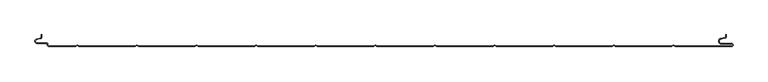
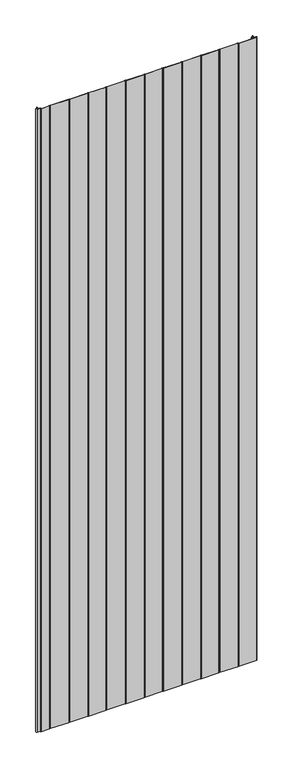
"""IFC4 building model written with IfcOpenShell, lengths in millimetres: plate geometry, PM1_Curtain-Panel_Perfil-Frigorífico : ACH_PM1_Panel-Acústico-Sectorización_150M."""

import ifcopenshell
import ifcopenshell.guid

model = None  # the IFC model being written
_history = None  # IfcOwnerHistory: only IFC2X3 demands one
_inside = {}  # id of a spatial element -> (the spatial element, [elements in it])
_under = {}  # id of a project, library or spatial element -> (it, [spatial elements below it])
_declared = {}  # id of a project -> (the project, [libraries it declares])
_typed = {}  # id of a type object -> (the type object, [elements of that type])
_made_of = {}  # id of a material, layer set ... -> (it, [elements and type objects made of it])


def new_model(schema):
    """Start an empty IFC model of exactly this schema.

    Asked for "IFC4X3", IfcOpenShell would pick the latest addendum, in which some entities
    have other attributes; the version numbers below select the first issue.
    IFC2X3 requires an IfcOwnerHistory on every rooted entity: one is made here for all.
    """
    global model, _history
    if schema == "IFC4X3":
        model = ifcopenshell.file(schema_version=(4, 3, 0, 0))
    else:
        model = ifcopenshell.file(schema=schema)
    _inside.clear()
    _under.clear()
    _declared.clear()
    _typed.clear()
    _made_of.clear()
    _history = None
    if model.schema == "IFC2X3":
        org = make("IfcOrganization", Name="unknown")
        user = make(
            "IfcPersonAndOrganization",
            ThePerson=make("IfcPerson", FamilyName="unknown"),
            TheOrganization=org,
        )
        app = make(
            "IfcApplication",
            ApplicationDeveloper=org,
            Version="unknown",
            ApplicationFullName="unknown",
            ApplicationIdentifier="unknown",
        )
        _history = make(
            "IfcOwnerHistory",
            OwningUser=user,
            OwningApplication=app,
            ChangeAction="ADDED",
            CreationDate=0,
        )
    return model


def make(cls, **values):
    """One entity of the class cls with the attributes given. An attribute that is None is left unset."""
    return model.create_entity(
        cls, **{name: value for name, value in values.items() if value is not None}
    )


def rooted(cls, **values):
    """An entity with a GlobalId (a new one), such as an element, a storey or a relation."""
    return make(cls, GlobalId=ifcopenshell.guid.new(), OwnerHistory=_history, **values)


def si_unit(unit_type, name, prefix=None):
    """IfcSIUnit, for example si_unit("LENGTHUNIT", "METRE", prefix="MILLI")."""
    return make("IfcSIUnit", UnitType=unit_type, Prefix=prefix, Name=name)


def assignment(units):
    """IfcUnitAssignment: the units of a project."""
    return None if units is None else make("IfcUnitAssignment", Units=units)


def point(xyz):
    """IfcCartesianPoint."""
    return None if xyz is None else make("IfcCartesianPoint", Coordinates=xyz)


def direction(xyz):
    """IfcDirection."""
    return None if xyz is None else make("IfcDirection", DirectionRatios=xyz)


def frame(location, z_axis=None, x_axis=None):
    """IfcAxis2Placement3D, a coordinate frame: its origin and axes. An axis left out is left unset."""
    return make(
        "IfcAxis2Placement3D",
        Location=point(location),
        Axis=direction(z_axis),
        RefDirection=direction(x_axis),
    )


def origin():
    """The frame at (0, 0, 0) with its axes left unset."""
    return frame((0.0, 0.0, 0.0))


def place(relative_to, where):
    """IfcLocalPlacement: puts the frame where relative to a parent placement (None: the world)."""
    return make(
        "IfcLocalPlacement", PlacementRelTo=relative_to, RelativePlacement=where
    )


def context(
    kind, dimensions, precision=None, world=None, true_north=None, identifier=None
):
    """IfcGeometricRepresentationContext, for example the 3D "Model" context."""
    return make(
        "IfcGeometricRepresentationContext",
        ContextIdentifier=identifier,
        ContextType=kind,
        CoordinateSpaceDimension=dimensions,
        Precision=precision,
        WorldCoordinateSystem=world,
        TrueNorth=true_north,
    )


def project(units=None, contexts=None):
    """IfcProject with its units and contexts."""
    return rooted(
        "IfcProject",
        Name="project",
        RepresentationContexts=contexts,
        UnitsInContext=assignment(units),
    )


def spatial(cls, under=None, at=None, **own):
    """A site, building, storey or space (cls), placed at a placement, below another one or the project."""
    s = rooted(cls, ObjectPlacement=at, **own)
    if under is not None:
        _under.setdefault(under.id(), (under, []))[1].append(s)
    return s


def polyline(points):
    """IfcPolyline through the points."""
    return make("IfcPolyline", Points=[point(p) for p in points])


def circle_curve(where, radius):
    """IfcCircle in the frame where."""
    return make("IfcCircle", Position=where, Radius=radius)


def shape(context_of_items, identifier, shape_type, items):
    """IfcShapeRepresentation: the items that make up one representation, for example the "Body"."""
    return make(
        "IfcShapeRepresentation",
        ContextOfItems=context_of_items,
        RepresentationIdentifier=identifier,
        RepresentationType=shape_type,
        Items=items,
    )


def source(mapping_origin, context_of_items, identifier, shape_type, items):
    """IfcRepresentationMap: a shape defined once, which mapped items show again and again."""
    return make(
        "IfcRepresentationMap",
        MappingOrigin=mapping_origin,
        MappedRepresentation=shape(context_of_items, identifier, shape_type, items),
    )


def transform(
    local_origin,
    x_axis=None,
    y_axis=None,
    z_axis=None,
    scale=None,
    scale2=None,
    scale3=None,
    uniform=True,
):
    """IfcCartesianTransformationOperator3D, or its non-uniform kind. x_axis, y_axis, z_axis: its Axis1, 2, 3."""
    if uniform:
        return make(
            "IfcCartesianTransformationOperator3D",
            Axis1=direction(x_axis),
            Axis2=direction(y_axis),
            LocalOrigin=point(local_origin),
            Scale=scale,
            Axis3=direction(z_axis),
        )
    return make(
        "IfcCartesianTransformationOperator3DnonUniform",
        Axis1=direction(x_axis),
        Axis2=direction(y_axis),
        LocalOrigin=point(local_origin),
        Scale=scale,
        Axis3=direction(z_axis),
        Scale2=scale2,
        Scale3=scale3,
    )


def mapped(mapping_source, mapping_target):
    """IfcMappedItem: shows the shape of a source again, moved by a transform."""
    return make(
        "IfcMappedItem", MappingSource=mapping_source, MappingTarget=mapping_target
    )


def made_of(thing, what):
    """Note that an element or type object is made of a material, layer set ...; save() writes the relation."""
    if what is not None:
        _made_of.setdefault(what.id(), (what, []))[1].append(thing)
    return thing


def element(
    cls,
    number,
    at=None,
    inside=None,
    cuts=None,
    type_object=None,
    material=None,
    context=None,
    identifier="Body",
    shape_type=None,
    held_by="IfcProductDefinitionShape",
    body=None,
    shapes=None,
    **own,
):
    """One element of the class cls, such as IfcWall. Its Tag is "e" and its number.

    at: its placement. inside: the storey or other place that contains it. cuts: it is an
    opening in that element (IfcRelVoidsElement). A single representation is given by context,
    identifier, shape_type and body (its items); several are given by shapes. held_by: the class
    of the entity that holds the representations. save() writes the other relations.
    """
    e = rooted(cls, Tag="e%d" % number, ObjectPlacement=at, **own)
    if body is not None:
        shapes = [shape(context, identifier, shape_type, body)]
    if shapes is not None:
        e.Representation = make(held_by, Representations=shapes)
    if inside is not None:
        _inside.setdefault(inside.id(), (inside, []))[1].append(e)
    if cuts is not None:
        rooted(
            "IfcRelVoidsElement", RelatingBuildingElement=cuts, RelatedOpeningElement=e
        )
    if type_object is not None:
        _typed.setdefault(type_object.id(), (type_object, []))[1].append(e)
    return made_of(e, material)


def aggregate(whole, parts):
    """IfcRelAggregates: a whole, such as a stair, and the parts it consists of."""
    return rooted("IfcRelAggregates", RelatingObject=whole, RelatedObjects=parts)


def save(model, path):
    """Write the relations noted so far, then the file.

    IfcRelAggregates (storeys below a building ...), IfcRelContainedInSpatialStructure (elements
    in a storey), IfcRelDefinesByType, IfcRelAssociatesMaterial and IfcRelDeclares: one each for
    every whole, place, type object, material and project.
    """
    for whole, parts in _under.values():
        aggregate(whole, parts)
    for where, things in _inside.values():
        rooted(
            "IfcRelContainedInSpatialStructure",
            RelatedElements=things,
            RelatingStructure=where,
        )
    for kind, things in _typed.values():
        rooted("IfcRelDefinesByType", RelatedObjects=things, RelatingType=kind)
    for what, things in _made_of.values():
        rooted("IfcRelAssociatesMaterial", RelatedObjects=things, RelatingMaterial=what)
    for by, libraries in _declared.values():
        rooted("IfcRelDeclares", RelatingContext=by, RelatedDefinitions=libraries)
    model.write(path)


def plane_surface(at):
    """IfcPlane: the flat surface through the origin of the frame at, square to its z axis."""
    return make("IfcPlane", Position=at)


def cylinder_surface(at, radius):
    """IfcCylindricalSurface: all points at the distance radius from the z axis of the frame at."""
    return make("IfcCylindricalSurface", Position=at, Radius=radius)


def revolved_surface(curve, axis_point, axis_direction):
    """IfcSurfaceOfRevolution: the curve turned about the line through axis_point along axis_direction."""
    return make(
        "IfcSurfaceOfRevolution",
        SweptCurve=make("IfcArbitraryOpenProfileDef", ProfileType="CURVE", Curve=curve),
        AxisPosition=make("IfcAxis1Placement", Location=point(axis_point), Axis=direction(axis_direction)),
    )


def advanced_brep(points, edges, surfaces, faces):
    """IfcAdvancedBrep: a solid bounded by faces that lie on surfaces and meet in shared edges.

    An edge is (start, end): straight between two places in points (the first is 0);
    or (start, end, curve); or (start, end, curve, False) where it runs against its curve.
    A face is (place in surfaces, loops), or (place, loops, False) where it looks against
    its surface's normal. A loop lists edges by number (the first is 1), with a minus sign
    where the edge is run from its end to its start. The first loop is the outer one.
    """
    corners = [point(p) for p in points]
    vertices = [make("IfcVertexPoint", VertexGeometry=c) for c in corners]
    made = []
    for start, end, *more in edges:
        made.append(
            make(
                "IfcEdgeCurve",
                EdgeStart=vertices[start],
                EdgeEnd=vertices[end],
                EdgeGeometry=more[0] if more else make("IfcPolyline", Points=[corners[start], corners[end]]),
                SameSense=more[1] if len(more) > 1 else True,
            )
        )
    hull = []
    for where, loops, *sense in faces:
        bounds = []
        for j, loop in enumerate(loops):
            ring = [make("IfcOrientedEdge", EdgeElement=made[abs(k) - 1], Orientation=k > 0) for k in loop]
            bounds.append(
                make(
                    "IfcFaceOuterBound" if j == 0 else "IfcFaceBound",
                    Bound=make("IfcEdgeLoop", EdgeList=ring),
                    Orientation=True,
                )
            )
        hull.append(make("IfcAdvancedFace", Bounds=bounds, FaceSurface=surfaces[where], SameSense=sense[0] if sense else True))
    return make("IfcAdvancedBrep", Outer=make("IfcClosedShell", CfsFaces=hull))


def plate_9ce57156(model_context):
    return source(origin(), model_context, "Body", "AdvancedBrep", [
        advanced_brep(
        [(-575.0, -134.121443, 3500.0), (-576.5500978, -136.0701831, 3500.0), (-582.7098239, -137.492268, 3500.0), (-581.9, -144.6, 3500.0), (-566.4, -144.6, 3500.0), (-564.4, -146.6, 3500.0), (-564.4, -148.0, 3500.0), (-562.4, -150.0, 3500.0), (-517.0999995, -150.0, 3500.0), (-514.4, -148.4411545, 3500.0), (-511.7000005, -150.0, 3500.0), (-417.0999995, -150.0, 3500.0), (-414.4, -148.4411545, 3500.0), (-411.7000005, -150.0, 3500.0), (-317.0999995, -150.0, 3500.0), (-314.4, -148.4411545, 3500.0), (-311.7000005, -150.0, 3500.0), (-217.0999995, -150.0, 3500.0), (-214.4, -148.4411545, 3500.0), (-211.7000005, -150.0, 3500.0), (-117.0999995, -150.0, 3500.0), (-114.4, -148.4411545, 3500.0), (-111.7000005, -150.0, 3500.0), (-17.0999995, -150.0, 3500.0), (-14.4, -148.4411545, 3500.0), (-11.7000005, -150.0, 3500.0), (82.9000005, -150.0, 3500.0), (85.6, -148.4411545, 3500.0), (88.2999995, -150.0, 3500.0), (182.9000005, -150.0, 3500.0), (185.6, -148.4411545, 3500.0), (188.2999995, -150.0, 3500.0), (282.9000005, -150.0, 3500.0), (285.6, -148.4411545, 3500.0), (288.2999995, -150.0, 3500.0), (382.9000005, -150.0, 3500.0), (385.6, -148.4411545, 3500.0), (388.2999995, -150.0, 3500.0), (482.9000005, -150.0, 3500.0), (485.6, -148.4411545, 3500.0), (488.2999995, -150.0, 3500.0), (583.1, -150.0, 3500.0), (585.6, -147.5, 3500.0), (583.1, -145.0, 3500.0), (566.1, -145.0, 3500.0), (565.405407, -137.060769, 3500.0), (571.8514855, -135.9241509, 3500.0), (574.0, -133.3636508, 3500.0), (574.0, -130.0, 3500.0), (573.2, -130.0, 3500.0), (573.2, -133.3636508, 3500.0), (571.7125669, -135.1363047, 3500.0), (565.2664884, -136.2729228, 3500.0), (566.1, -145.8, 3500.0), (583.1, -145.8, 3500.0), (583.1, -149.2, 3500.0), (488.5143588, -149.2, 3500.0), (485.6, -147.517394, 3500.0), (482.6856412, -149.2, 3500.0), (388.5143588, -149.2, 3500.0), (385.6, -147.517394, 3500.0), (382.6856412, -149.2, 3500.0), (288.5143588, -149.2, 3500.0), (285.6, -147.517394, 3500.0), (282.6856412, -149.2, 3500.0), (188.5143588, -149.2, 3500.0), (185.6, -147.517394, 3500.0), (182.6856412, -149.2, 3500.0), (88.5143588, -149.2, 3500.0), (85.6, -147.517394, 3500.0), (82.6856412, -149.2, 3500.0), (-11.4856412, -149.2, 3500.0), (-14.4, -147.517394, 3500.0), (-17.3143588, -149.2, 3500.0), (-111.4856412, -149.2, 3500.0), (-114.4, -147.517394, 3500.0), (-117.3143588, -149.2, 3500.0), (-211.4856412, -149.2, 3500.0), (-214.4, -147.517394, 3500.0), (-217.3143588, -149.2, 3500.0), (-311.4856412, -149.2, 3500.0), (-314.4, -147.517394, 3500.0), (-317.3143588, -149.2, 3500.0), (-411.4856412, -149.2, 3500.0), (-414.4, -147.517394, 3500.0), (-417.3143588, -149.2, 3500.0), (-511.4856412, -149.2, 3500.0), (-514.4, -147.517394, 3500.0), (-517.3143588, -149.2, 3500.0), (-562.4, -149.2, 3500.0), (-563.6, -148.0, 3500.0), (-563.6, -146.6, 3500.0), (-566.4, -143.8, 3500.0), (-581.9, -143.8, 3500.0), (-582.529863, -138.2717638, 3500.0), (-576.370137, -136.849679, 3500.0), (-574.2, -134.121443, 3500.0), (-574.2, -130.0, 3500.0), (-575.0, -130.0, 3500.0), (-575.0, -134.121443, 0.0), (-575.0, -130.0, 0.0), (-574.2, -130.0, 0.0), (-574.2, -134.121443, 0.0), (-576.370137, -136.8496792, 0.0), (-582.529863, -138.271764, 0.0), (-581.9, -143.8, 0.0), (-566.4, -143.8, 0.0), (-563.6, -146.6, 0.0), (-563.6, -148.0, 0.0), (-562.4, -149.2, 0.0), (-517.3143588, -149.2, 0.0), (-514.4, -147.517394, 0.0), (-511.4856412, -149.2, 0.0), (-417.3143588, -149.2, 0.0), (-414.4, -147.517394, 0.0), (-411.4856412, -149.2, 0.0), (-317.3143588, -149.2, 0.0), (-314.4, -147.517394, 0.0), (-311.4856412, -149.2, 0.0), (-217.3143588, -149.2, 0.0), (-214.4, -147.517394, 0.0), (-211.4856412, -149.2, 0.0), (-117.3143588, -149.2, 0.0), (-114.4, -147.517394, 0.0), (-111.4856412, -149.2, 0.0), (-17.3143588, -149.2, 0.0), (-14.4, -147.517394, 0.0), (-11.4856412, -149.2, 0.0), (82.6856412, -149.2, 0.0), (85.6, -147.517394, 0.0), (88.5143588, -149.2, 0.0), (182.6856412, -149.2, 0.0), (185.6, -147.517394, 0.0), (188.5143588, -149.2, 0.0), (282.6856412, -149.2, 0.0), (285.6, -147.517394, 0.0), (288.5143588, -149.2, 0.0), (382.6856412, -149.2, 0.0), (385.6, -147.517394, 0.0), (388.5143588, -149.2, 0.0), (482.6856412, -149.2, 0.0), (485.6, -147.517394, 0.0), (488.5143588, -149.2, 0.0), (583.1, -149.2, 0.0), (583.1, -145.8, 0.0), (566.1, -145.8, 0.0), (565.2664884, -136.2729229, 0.0), (571.7125669, -135.1363047, 0.0), (573.2, -133.3636508, 0.0), (573.2, -130.0, 0.0), (574.0, -130.0, 0.0), (574.0, -133.3636508, 0.0), (571.8514855, -135.9241509, 0.0), (565.405407, -137.060769, 0.0), (566.1, -145.0, 0.0), (583.1, -145.0, 0.0), (585.6, -147.5, 0.0), (583.1, -150.0, 0.0), (488.2999995, -150.0, 0.0), (485.6, -148.4411545, 0.0), (482.9000005, -150.0, 0.0), (388.2999995, -150.0, 0.0), (385.6, -148.4411545, 0.0), (382.9000005, -150.0, 0.0), (288.2999995, -150.0, 0.0), (285.6, -148.4411545, 0.0), (282.9000005, -150.0, 0.0), (188.2999995, -150.0, 0.0), (185.6, -148.4411545, 0.0), (182.9000005, -150.0, 0.0), (88.2999995, -150.0, 0.0), (85.6, -148.4411545, 0.0), (82.9000005, -150.0, 0.0), (-11.7000005, -150.0, 0.0), (-14.4, -148.4411545, 0.0), (-17.0999995, -150.0, 0.0), (-111.7000005, -150.0, 0.0), (-114.4, -148.4411545, 0.0), (-117.0999995, -150.0, 0.0), (-211.7000005, -150.0, 0.0), (-214.4, -148.4411545, 0.0), (-217.0999995, -150.0, 0.0), (-311.7000005, -150.0, 0.0), (-314.4, -148.4411545, 0.0), (-317.0999995, -150.0, 0.0), (-411.7000005, -150.0, 0.0), (-414.4, -148.4411545, 0.0), (-417.0999995, -150.0, 0.0), (-511.7000005, -150.0, 0.0), (-514.4, -148.4411545, 0.0), (-517.0999995, -150.0, 0.0), (-562.4, -150.0, 0.0), (-564.4, -148.0, 0.0), (-564.4, -146.6, 0.0), (-566.4, -144.6, 0.0), (-581.9, -144.6, 0.0), (-582.7098239, -137.4922678, 0.0), (-576.5500979, -136.070183, 0.0)],
        [
            (0, 1, circle_curve(frame((-577.0, -134.121443, 3500.0), z_axis=(0.0, 0.0, -1.0), x_axis=(1.0, 0.0, 0.0)), 2.0)),
            (1, 2),
            (2, 3, circle_curve(frame((-581.9, -141.0, 3500.0), z_axis=(0.0, 0.0, 1.0), x_axis=(1.0, 0.0, 0.0)), 3.6)),
            (3, 4),
            (4, 5, circle_curve(frame((-566.4, -146.6, 3500.0), z_axis=(0.0, 0.0, -1.0), x_axis=(1.0, 0.0, 0.0)), 2.0)),
            (5, 6),
            (6, 7, circle_curve(frame((-562.4, -148.0, 3500.0), z_axis=(0.0, 0.0, 1.0), x_axis=(1.0, 0.0, 0.0)), 2.0)),
            (7, 8),
            (8, 9),
            (9, 10),
            (10, 11),
            (11, 12),
            (12, 13),
            (13, 14),
            (14, 15),
            (15, 16),
            (16, 17),
            (17, 18),
            (18, 19),
            (19, 20),
            (20, 21),
            (21, 22),
            (22, 23),
            (23, 24),
            (24, 25),
            (25, 26),
            (26, 27),
            (27, 28),
            (28, 29),
            (29, 30),
            (30, 31),
            (31, 32),
            (32, 33),
            (33, 34),
            (34, 35),
            (35, 36),
            (36, 37),
            (37, 38),
            (38, 39),
            (39, 40),
            (40, 41),
            (41, 42, circle_curve(frame((583.1, -147.5, 3500.0), z_axis=(0.0, 0.0, 1.0), x_axis=(1.0, 0.0, 0.0)), 2.5)),
            (42, 43, circle_curve(frame((583.1, -147.5, 3500.0), z_axis=(0.0, 0.0, 1.0), x_axis=(1.0, 0.0, 0.0)), 2.5)),
            (43, 44),
            (44, 45, circle_curve(frame((566.1, -141.0, 3500.0), z_axis=(0.0, 0.0, -1.0), x_axis=(1.0, 0.0, 0.0)), 4.0)),
            (45, 46),
            (46, 47, circle_curve(frame((571.4, -133.3636508, 3500.0), z_axis=(0.0, 0.0, 1.0), x_axis=(1.0, 0.0, 0.0)), 2.6)),
            (47, 48),
            (48, 49),
            (49, 50),
            (50, 51, circle_curve(frame((571.4, -133.3636508, 3500.0), z_axis=(0.0, 0.0, -1.0), x_axis=(1.0, 0.0, 0.0)), 1.8)),
            (51, 52),
            (52, 53, circle_curve(frame((566.1, -141.0, 3500.0), z_axis=(0.0, 0.0, 1.0), x_axis=(1.0, 0.0, 0.0)), 4.8)),
            (53, 54),
            (54, 55, circle_curve(frame((583.1, -147.5, 3500.0), z_axis=(0.0, 0.0, -1.0), x_axis=(1.0, 0.0, 0.0)), 1.7)),
            (55, 56),
            (56, 57),
            (57, 58),
            (58, 59),
            (59, 60),
            (60, 61),
            (61, 62),
            (62, 63),
            (63, 64),
            (64, 65),
            (65, 66),
            (66, 67),
            (67, 68),
            (68, 69),
            (69, 70),
            (70, 71),
            (71, 72),
            (72, 73),
            (73, 74),
            (74, 75),
            (75, 76),
            (76, 77),
            (77, 78),
            (78, 79),
            (79, 80),
            (80, 81),
            (81, 82),
            (82, 83),
            (83, 84),
            (84, 85),
            (85, 86),
            (86, 87),
            (87, 88),
            (88, 89),
            (89, 90, circle_curve(frame((-562.4, -148.0, 3500.0), z_axis=(0.0, 0.0, -1.0), x_axis=(1.0, 0.0, 0.0)), 1.2)),
            (90, 91),
            (91, 92, circle_curve(frame((-566.4, -146.6, 3500.0), z_axis=(0.0, 0.0, 1.0), x_axis=(1.0, 0.0, 0.0)), 2.8)),
            (92, 93),
            (93, 94, circle_curve(frame((-581.9, -141.0, 3500.0), z_axis=(0.0, 0.0, -1.0), x_axis=(1.0, 0.0, 0.0)), 2.8)),
            (94, 95),
            (95, 96, circle_curve(frame((-577.0, -134.121443, 3500.0), z_axis=(0.0, 0.0, 1.0), x_axis=(1.0, 0.0, 0.0)), 2.8)),
            (96, 97),
            (97, 98),
            (98, 0),
            (99, 100),
            (100, 101),
            (101, 102),
            (102, 103, circle_curve(frame((-577.0, -134.121443, 0.0), z_axis=(0.0, 0.0, -1.0), x_axis=(1.0, 0.0, 0.0)), 2.8)),
            (103, 104),
            (104, 105, circle_curve(frame((-581.9, -141.0, 0.0), z_axis=(0.0, 0.0, 1.0), x_axis=(1.0, 0.0, 0.0)), 2.8)),
            (105, 106),
            (106, 107, circle_curve(frame((-566.4, -146.6, 0.0), z_axis=(0.0, 0.0, -1.0), x_axis=(1.0, 0.0, 0.0)), 2.8)),
            (107, 108),
            (108, 109, circle_curve(frame((-562.4, -148.0, 0.0), z_axis=(0.0, 0.0, 1.0), x_axis=(1.0, 0.0, 0.0)), 1.2)),
            (109, 110),
            (110, 111),
            (111, 112),
            (112, 113),
            (113, 114),
            (114, 115),
            (115, 116),
            (116, 117),
            (117, 118),
            (118, 119),
            (119, 120),
            (120, 121),
            (121, 122),
            (122, 123),
            (123, 124),
            (124, 125),
            (125, 126),
            (126, 127),
            (127, 128),
            (128, 129),
            (129, 130),
            (130, 131),
            (131, 132),
            (132, 133),
            (133, 134),
            (134, 135),
            (135, 136),
            (136, 137),
            (137, 138),
            (138, 139),
            (139, 140),
            (140, 141),
            (141, 142),
            (142, 143),
            (143, 144, circle_curve(frame((583.1, -147.5, 0.0), z_axis=(0.0, 0.0, 1.0), x_axis=(1.0, 0.0, 0.0)), 1.7)),
            (144, 145),
            (145, 146, circle_curve(frame((566.1, -141.0, 0.0), z_axis=(0.0, 0.0, -1.0), x_axis=(1.0, 0.0, 0.0)), 4.8)),
            (146, 147),
            (147, 148, circle_curve(frame((571.4, -133.3636508, 0.0), z_axis=(0.0, 0.0, 1.0), x_axis=(1.0, 0.0, 0.0)), 1.8)),
            (148, 149),
            (149, 150),
            (150, 151),
            (151, 152, circle_curve(frame((571.4, -133.3636508, 0.0), z_axis=(0.0, 0.0, -1.0), x_axis=(1.0, 0.0, 0.0)), 2.6)),
            (152, 153),
            (153, 154, circle_curve(frame((566.1, -141.0, 0.0), z_axis=(0.0, 0.0, 1.0), x_axis=(1.0, 0.0, 0.0)), 4.0)),
            (154, 155),
            (155, 156, circle_curve(frame((583.1, -147.5, 0.0), z_axis=(0.0, 0.0, -1.0), x_axis=(1.0, 0.0, 0.0)), 2.5)),
            (156, 157, circle_curve(frame((583.1, -147.5, 0.0), z_axis=(0.0, 0.0, -1.0), x_axis=(1.0, 0.0, 0.0)), 2.5)),
            (157, 158),
            (158, 159),
            (159, 160),
            (160, 161),
            (161, 162),
            (162, 163),
            (163, 164),
            (164, 165),
            (165, 166),
            (166, 167),
            (167, 168),
            (168, 169),
            (169, 170),
            (170, 171),
            (171, 172),
            (172, 173),
            (173, 174),
            (174, 175),
            (175, 176),
            (176, 177),
            (177, 178),
            (178, 179),
            (179, 180),
            (180, 181),
            (181, 182),
            (182, 183),
            (183, 184),
            (184, 185),
            (185, 186),
            (186, 187),
            (187, 188),
            (188, 189),
            (189, 190),
            (190, 191),
            (191, 192, circle_curve(frame((-562.4, -148.0, 0.0), z_axis=(0.0, 0.0, -1.0), x_axis=(1.0, 0.0, 0.0)), 2.0)),
            (192, 193),
            (193, 194, circle_curve(frame((-566.4, -146.6, 0.0), z_axis=(0.0, 0.0, 1.0), x_axis=(1.0, 0.0, 0.0)), 2.0)),
            (194, 195),
            (195, 196, circle_curve(frame((-581.9, -141.0, 0.0), z_axis=(0.0, 0.0, -1.0), x_axis=(1.0, 0.0, 0.0)), 3.6)),
            (196, 197),
            (197, 99, circle_curve(frame((-577.0, -134.121443, 0.0), z_axis=(0.0, 0.0, 1.0), x_axis=(1.0, 0.0, 0.0)), 2.0)),
            (0, 99),
            (197, 1),
            (196, 2),
            (195, 3),
            (194, 4),
            (193, 5),
            (192, 6),
            (191, 7),
            (190, 8),
            (189, 9),
            (188, 10),
            (187, 11),
            (186, 12),
            (185, 13),
            (184, 14),
            (183, 15),
            (182, 16),
            (181, 17),
            (180, 18),
            (179, 19),
            (178, 20),
            (177, 21),
            (176, 22),
            (175, 23),
            (174, 24),
            (173, 25),
            (172, 26),
            (171, 27),
            (170, 28),
            (169, 29),
            (168, 30),
            (167, 31),
            (166, 32),
            (165, 33),
            (164, 34),
            (163, 35),
            (162, 36),
            (161, 37),
            (160, 38),
            (159, 39),
            (158, 40),
            (157, 41),
            (155, 43),
            (154, 44),
            (153, 45),
            (152, 46),
            (151, 47),
            (150, 48),
            (149, 49),
            (148, 50),
            (147, 51),
            (146, 52),
            (145, 53),
            (144, 54),
            (143, 55),
            (142, 56),
            (141, 57),
            (140, 58),
            (139, 59),
            (138, 60),
            (137, 61),
            (136, 62),
            (135, 63),
            (134, 64),
            (133, 65),
            (132, 66),
            (131, 67),
            (130, 68),
            (129, 69),
            (128, 70),
            (127, 71),
            (126, 72),
            (125, 73),
            (124, 74),
            (123, 75),
            (122, 76),
            (121, 77),
            (120, 78),
            (119, 79),
            (118, 80),
            (117, 81),
            (116, 82),
            (115, 83),
            (114, 84),
            (113, 85),
            (112, 86),
            (111, 87),
            (110, 88),
            (109, 89),
            (108, 90),
            (107, 91),
            (106, 92),
            (105, 93),
            (104, 94),
            (103, 95),
            (102, 96),
            (101, 97),
            (100, 98),
        ],
        [
            plane_surface(frame((-575.0, -150.0, 3500.0), z_axis=(0.0, 0.0, 1.0), x_axis=(0.0, 1.0, 0.0))),
            plane_surface(frame((-575.0, -150.0, 0.0), z_axis=(0.0, 0.0, -1.0), x_axis=(0.0, 1.0, 0.0))),
            revolved_surface(polyline([(-575.0, -134.121443, 0.0), (-575.0, -134.121443, 3500.0)]), (-577.0, -134.121443, 3500.0), (0.0, 0.0, -1.0)),
            plane_surface(frame((-576.5500979, -136.070183, 3500.0), z_axis=(-0.22495108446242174, 0.9743700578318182, 0.0), x_axis=(0.0, 0.0, -1.0))),
            cylinder_surface(frame((-581.9, -141.0, 3500.0), z_axis=(0.0, 0.0, 1.0), x_axis=(1.0, 0.0, 0.0)), 3.6),
            plane_surface(frame((-581.9, -144.6, 3500.0), z_axis=(0.0, -1.0, 0.0), x_axis=(0.0, 0.0, -1.0))),
            revolved_surface(polyline([(-564.4, -146.6, 0.0), (-564.4, -146.6, 3500.0)]), (-566.4, -146.6, 3500.0), (0.0, 0.0, -1.0)),
            plane_surface(frame((-564.4, -146.6, 3500.0), z_axis=(-1.0, 0.0, 0.0), x_axis=(0.0, 0.0, -1.0))),
            cylinder_surface(frame((-562.4, -148.0, 3500.0), z_axis=(0.0, 0.0, 1.0), x_axis=(1.0, 0.0, 0.0)), 2.0),
            plane_surface(frame((-562.4, -150.0, 3500.0), z_axis=(0.0, -1.0, 0.0), x_axis=(0.0, 0.0, -1.0))),
            plane_surface(frame((-517.0999995, -150.0, 3500.0), z_axis=(0.5000000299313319, -0.8660253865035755, 0.0), x_axis=(0.0, 0.0, -1.0))),
            plane_surface(frame((-514.4, -148.4411545, 3500.0), z_axis=(-0.5000000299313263, -0.8660253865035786, 0.0), x_axis=(0.0, 0.0, -1.0))),
            plane_surface(frame((-511.7000005, -150.0, 3500.0), z_axis=(0.0, -1.0, 0.0), x_axis=(0.0, 0.0, -1.0))),
            plane_surface(frame((-417.0999995, -150.0, 3500.0), z_axis=(0.5000000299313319, -0.8660253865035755, 0.0), x_axis=(0.0, 0.0, -1.0))),
            plane_surface(frame((-414.4, -148.4411545, 3500.0), z_axis=(-0.5000000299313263, -0.8660253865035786, 0.0), x_axis=(0.0, 0.0, -1.0))),
            plane_surface(frame((-411.7000005, -150.0, 3500.0), z_axis=(0.0, -1.0, 0.0), x_axis=(0.0, 0.0, -1.0))),
            plane_surface(frame((-317.0999995, -150.0, 3500.0), z_axis=(0.5000000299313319, -0.8660253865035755, 0.0), x_axis=(0.0, 0.0, -1.0))),
            plane_surface(frame((-314.4, -148.4411545, 3500.0), z_axis=(-0.5000000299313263, -0.8660253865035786, 0.0), x_axis=(0.0, 0.0, -1.0))),
            plane_surface(frame((-311.7000005, -150.0, 3500.0), z_axis=(0.0, -1.0, 0.0), x_axis=(0.0, 0.0, -1.0))),
            plane_surface(frame((-217.0999995, -150.0, 3500.0), z_axis=(0.5000000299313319, -0.8660253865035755, 0.0), x_axis=(0.0, 0.0, -1.0))),
            plane_surface(frame((-214.4, -148.4411545, 3500.0), z_axis=(-0.5000000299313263, -0.8660253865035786, 0.0), x_axis=(0.0, 0.0, -1.0))),
            plane_surface(frame((-211.7000005, -150.0, 3500.0), z_axis=(0.0, -1.0, 0.0), x_axis=(0.0, 0.0, -1.0))),
            plane_surface(frame((-117.0999995, -150.0, 3500.0), z_axis=(0.5000000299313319, -0.8660253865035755, 0.0), x_axis=(0.0, 0.0, -1.0))),
            plane_surface(frame((-114.4, -148.4411545, 3500.0), z_axis=(-0.5000000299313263, -0.8660253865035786, 0.0), x_axis=(0.0, 0.0, -1.0))),
            plane_surface(frame((-111.7000005, -150.0, 3500.0), z_axis=(0.0, -1.0, 0.0), x_axis=(0.0, 0.0, -1.0))),
            plane_surface(frame((-17.0999995, -150.0, 3500.0), z_axis=(0.5000000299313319, -0.8660253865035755, 0.0), x_axis=(0.0, 0.0, -1.0))),
            plane_surface(frame((-14.4, -148.4411545, 3500.0), z_axis=(-0.5000000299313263, -0.8660253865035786, 0.0), x_axis=(0.0, 0.0, -1.0))),
            plane_surface(frame((-11.7000005, -150.0, 3500.0), z_axis=(0.0, -1.0, 0.0), x_axis=(0.0, 0.0, -1.0))),
            plane_surface(frame((82.9000005, -150.0, 3500.0), z_axis=(0.5000000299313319, -0.8660253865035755, 0.0), x_axis=(0.0, 0.0, -1.0))),
            plane_surface(frame((85.6, -148.4411545, 3500.0), z_axis=(-0.5000000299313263, -0.8660253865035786, 0.0), x_axis=(0.0, 0.0, -1.0))),
            plane_surface(frame((88.2999995, -150.0, 3500.0), z_axis=(0.0, -1.0, 0.0), x_axis=(0.0, 0.0, -1.0))),
            plane_surface(frame((182.9000005, -150.0, 3500.0), z_axis=(0.5000000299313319, -0.8660253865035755, 0.0), x_axis=(0.0, 0.0, -1.0))),
            plane_surface(frame((185.6, -148.4411545, 3500.0), z_axis=(-0.5000000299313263, -0.8660253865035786, 0.0), x_axis=(0.0, 0.0, -1.0))),
            plane_surface(frame((188.2999995, -150.0, 3500.0), z_axis=(0.0, -1.0, 0.0), x_axis=(0.0, 0.0, -1.0))),
            plane_surface(frame((282.9000005, -150.0, 3500.0), z_axis=(0.5000000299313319, -0.8660253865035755, 0.0), x_axis=(0.0, 0.0, -1.0))),
            plane_surface(frame((285.6, -148.4411545, 3500.0), z_axis=(-0.5000000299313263, -0.8660253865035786, 0.0), x_axis=(0.0, 0.0, -1.0))),
            plane_surface(frame((288.2999995, -150.0, 3500.0), z_axis=(0.0, -1.0, 0.0), x_axis=(0.0, 0.0, -1.0))),
            plane_surface(frame((382.9000005, -150.0, 3500.0), z_axis=(0.5000000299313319, -0.8660253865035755, 0.0), x_axis=(0.0, 0.0, -1.0))),
            plane_surface(frame((385.6, -148.4411545, 3500.0), z_axis=(-0.5000000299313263, -0.8660253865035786, 0.0), x_axis=(0.0, 0.0, -1.0))),
            plane_surface(frame((388.2999995, -150.0, 3500.0), z_axis=(0.0, -1.0, 0.0), x_axis=(0.0, 0.0, -1.0))),
            plane_surface(frame((482.9000005, -150.0, 3500.0), z_axis=(0.5000000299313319, -0.8660253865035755, 0.0), x_axis=(0.0, 0.0, -1.0))),
            plane_surface(frame((485.6, -148.4411545, 3500.0), z_axis=(-0.5000000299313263, -0.8660253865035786, 0.0), x_axis=(0.0, 0.0, -1.0))),
            plane_surface(frame((535.6, -150.0, 3500.0), z_axis=(0.0, -1.0, 0.0), x_axis=(0.0, 0.0, -1.0))),
            cylinder_surface(frame((583.1, -147.5, 3500.0), z_axis=(0.0, 0.0, 1.0), x_axis=(1.0, 0.0, 0.0)), 2.5),
            plane_surface(frame((583.1, -145.0, 3500.0), z_axis=(0.0, 1.0, 0.0), x_axis=(0.0, 0.0, -1.0))),
            revolved_surface(polyline([(570.1, -141.0, 0.0), (570.1, -141.0, 3500.0)]), (566.1, -141.0, 3500.0), (0.0, 0.0, -1.0)),
            plane_surface(frame((565.405407, -137.060769, 3500.0), z_axis=(0.17364825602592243, -0.9848077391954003, 0.0), x_axis=(0.0, 0.0, -1.0))),
            cylinder_surface(frame((571.4, -133.3636508, 3500.0), z_axis=(0.0, 0.0, 1.0), x_axis=(1.0, 0.0, 0.0)), 2.6),
            plane_surface(frame((574.0, -133.3636508, 3500.0), z_axis=(1.0, 0.0, 0.0), x_axis=(0.0, 0.0, -1.0))),
            plane_surface(frame((574.0, -130.0, 3500.0), z_axis=(0.0, 1.0, 0.0), x_axis=(0.0, 0.0, -1.0))),
            plane_surface(frame((573.2, -130.0, 3500.0), z_axis=(-1.0, 0.0, 0.0), x_axis=(0.0, 0.0, -1.0))),
            revolved_surface(polyline([(573.1999999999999, -133.3636508, 0.0), (573.1999999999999, -133.3636508, 3500.0)]), (571.4, -133.3636508, 3500.0), (0.0, 0.0, -1.0)),
            plane_surface(frame((571.7125669, -135.1363047, 3500.0), z_axis=(-0.17364825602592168, 0.9848077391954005, 0.0), x_axis=(0.0, 0.0, -1.0))),
            cylinder_surface(frame((566.1, -141.0, 3500.0), z_axis=(0.0, 0.0, 1.0), x_axis=(1.0, 0.0, 0.0)), 4.8),
            plane_surface(frame((566.1, -145.8, 3500.0), z_axis=(0.0, -1.0, 0.0), x_axis=(0.0, 0.0, -1.0))),
            revolved_surface(polyline([(584.8000000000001, -147.5, 0.0), (584.8000000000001, -147.5, 3500.0)]), (583.1, -147.5, 3500.0), (0.0, 0.0, -1.0)),
            plane_surface(frame((535.6, -149.2, 3500.0), z_axis=(0.0, 1.0, 0.0), x_axis=(0.0, 0.0, -1.0))),
            plane_surface(frame((488.5143588, -149.2, 3500.0), z_axis=(0.5000000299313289, 0.8660253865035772, 0.0), x_axis=(0.0, 0.0, -1.0))),
            plane_surface(frame((485.6, -147.517394, 3500.0), z_axis=(-0.5000000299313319, 0.8660253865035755, 0.0), x_axis=(0.0, 0.0, -1.0))),
            plane_surface(frame((482.6856412, -149.2, 3500.0), z_axis=(0.0, 1.0, 0.0), x_axis=(0.0, 0.0, -1.0))),
            plane_surface(frame((388.5143588, -149.2, 3500.0), z_axis=(0.5000000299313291, 0.8660253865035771, 0.0), x_axis=(0.0, 0.0, -1.0))),
            plane_surface(frame((385.6, -147.517394, 3500.0), z_axis=(-0.500000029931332, 0.8660253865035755, 0.0), x_axis=(0.0, 0.0, -1.0))),
            plane_surface(frame((382.6856412, -149.2, 3500.0), z_axis=(0.0, 1.0, 0.0), x_axis=(0.0, 0.0, -1.0))),
            plane_surface(frame((288.5143588, -149.2, 3500.0), z_axis=(0.5000000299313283, 0.8660253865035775, 0.0), x_axis=(0.0, 0.0, -1.0))),
            plane_surface(frame((285.6, -147.517394, 3500.0), z_axis=(-0.5000000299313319, 0.8660253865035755, 0.0), x_axis=(0.0, 0.0, -1.0))),
            plane_surface(frame((282.6856412, -149.2, 3500.0), z_axis=(0.0, 1.0, 0.0), x_axis=(0.0, 0.0, -1.0))),
            plane_surface(frame((188.5143588, -149.2, 3500.0), z_axis=(0.5000000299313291, 0.8660253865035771, 0.0), x_axis=(0.0, 0.0, -1.0))),
            plane_surface(frame((185.6, -147.517394, 3500.0), z_axis=(-0.5000000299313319, 0.8660253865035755, 0.0), x_axis=(0.0, 0.0, -1.0))),
            plane_surface(frame((182.6856412, -149.2, 3500.0), z_axis=(0.0, 1.0, 0.0), x_axis=(0.0, 0.0, -1.0))),
            plane_surface(frame((88.5143588, -149.2, 3500.0), z_axis=(0.5000000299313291, 0.8660253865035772, 0.0), x_axis=(0.0, 0.0, -1.0))),
            plane_surface(frame((85.6, -147.517394, 3500.0), z_axis=(-0.5000000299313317, 0.8660253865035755, 0.0), x_axis=(0.0, 0.0, -1.0))),
            plane_surface(frame((82.6856412, -149.2, 3500.0), z_axis=(0.0, 1.0, 0.0), x_axis=(0.0, 0.0, -1.0))),
            plane_surface(frame((-11.4856412, -149.2, 3500.0), z_axis=(0.500000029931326, 0.8660253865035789, 0.0), x_axis=(0.0, 0.0, -1.0))),
            plane_surface(frame((-14.4, -147.517394, 3500.0), z_axis=(-0.500000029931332, 0.8660253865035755, 0.0), x_axis=(0.0, 0.0, -1.0))),
            plane_surface(frame((-17.3143588, -149.2, 3500.0), z_axis=(0.0, 1.0, 0.0), x_axis=(0.0, 0.0, -1.0))),
            plane_surface(frame((-111.4856412, -149.2, 3500.0), z_axis=(0.5000000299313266, 0.8660253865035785, 0.0), x_axis=(0.0, 0.0, -1.0))),
            plane_surface(frame((-114.4, -147.517394, 3500.0), z_axis=(-0.5000000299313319, 0.8660253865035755, 0.0), x_axis=(0.0, 0.0, -1.0))),
            plane_surface(frame((-117.3143588, -149.2, 3500.0), z_axis=(0.0, 1.0, 0.0), x_axis=(0.0, 0.0, -1.0))),
            plane_surface(frame((-211.4856412, -149.2, 3500.0), z_axis=(0.5000000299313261, 0.8660253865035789, 0.0), x_axis=(0.0, 0.0, -1.0))),
            plane_surface(frame((-214.4, -147.517394, 3500.0), z_axis=(-0.500000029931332, 0.8660253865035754, 0.0), x_axis=(0.0, 0.0, -1.0))),
            plane_surface(frame((-217.3143588, -149.2, 3500.0), z_axis=(0.0, 1.0, 0.0), x_axis=(0.0, 0.0, -1.0))),
            plane_surface(frame((-311.4856412, -149.2, 3500.0), z_axis=(0.5000000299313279, 0.8660253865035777, 0.0), x_axis=(0.0, 0.0, -1.0))),
            plane_surface(frame((-314.4, -147.517394, 3500.0), z_axis=(-0.5000000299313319, 0.8660253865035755, 0.0), x_axis=(0.0, 0.0, -1.0))),
            plane_surface(frame((-317.3143588, -149.2, 3500.0), z_axis=(0.0, 1.0, 0.0), x_axis=(0.0, 0.0, -1.0))),
            plane_surface(frame((-411.4856412, -149.2, 3500.0), z_axis=(0.5000000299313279, 0.8660253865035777, 0.0), x_axis=(0.0, 0.0, -1.0))),
            plane_surface(frame((-414.4, -147.517394, 3500.0), z_axis=(-0.5000000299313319, 0.8660253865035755, 0.0), x_axis=(0.0, 0.0, -1.0))),
            plane_surface(frame((-417.3143588, -149.2, 3500.0), z_axis=(0.0, 1.0, 0.0), x_axis=(0.0, 0.0, -1.0))),
            plane_surface(frame((-511.4856412, -149.2, 3500.0), z_axis=(0.5000000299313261, 0.8660253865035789, 0.0), x_axis=(0.0, 0.0, -1.0))),
            plane_surface(frame((-514.4, -147.517394, 3500.0), z_axis=(-0.5000000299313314, 0.8660253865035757, 0.0), x_axis=(0.0, 0.0, -1.0))),
            plane_surface(frame((-517.3143588, -149.2, 3500.0), z_axis=(0.0, 1.0, 0.0), x_axis=(0.0, 0.0, -1.0))),
            revolved_surface(polyline([(-561.1999999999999, -148.0, 0.0), (-561.1999999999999, -148.0, 3500.0)]), (-562.4, -148.0, 3500.0), (0.0, 0.0, -1.0)),
            plane_surface(frame((-563.6, -148.0, 3500.0), z_axis=(1.0, 0.0, 0.0), x_axis=(0.0, 0.0, -1.0))),
            cylinder_surface(frame((-566.4, -146.6, 3500.0), z_axis=(0.0, 0.0, 1.0), x_axis=(1.0, 0.0, 0.0)), 2.8),
            plane_surface(frame((-566.4, -143.8, 3500.0), z_axis=(0.0, 1.0, 0.0), x_axis=(0.0, 0.0, -1.0))),
            revolved_surface(polyline([(-579.1, -141.0, 0.0), (-579.1, -141.0, 3500.0)]), (-581.9, -141.0, 3500.0), (0.0, 0.0, -1.0)),
            plane_surface(frame((-582.529863, -138.271764, 3500.0), z_axis=(0.22495108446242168, -0.9743700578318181, 0.0), x_axis=(0.0, 0.0, -1.0))),
            cylinder_surface(frame((-577.0, -134.121443, 3500.0), z_axis=(0.0, 0.0, 1.0), x_axis=(1.0, 0.0, 0.0)), 2.8),
            plane_surface(frame((-574.2, -134.121443, 3500.0), z_axis=(1.0, 0.0, 0.0), x_axis=(0.0, 0.0, -1.0))),
            plane_surface(frame((-574.2, -130.0, 3500.0), z_axis=(0.0, 1.0, 0.0), x_axis=(0.0, 0.0, -1.0))),
            plane_surface(frame((-575.0, -130.0, 3500.0), z_axis=(-1.0, 0.0, 0.0), x_axis=(0.0, 0.0, -1.0))),
        ],
        [
            (0, [[1, 2, 3, 4, 5, 6, 7, 8, 9, 10, 11, 12, 13, 14, 15, 16, 17, 18, 19, 20, 21, 22, 23, 24, 25, 26, 27, 28, 29, 30, 31, 32, 33, 34, 35, 36, 37, 38, 39, 40, 41, 42, 43, 44, 45, 46, 47, 48, 49, 50, 51, 52, 53, 54, 55, 56, 57, 58, 59, 60, 61, 62, 63, 64, 65, 66, 67, 68, 69, 70, 71, 72, 73, 74, 75, 76, 77, 78, 79, 80, 81, 82, 83, 84, 85, 86, 87, 88, 89, 90, 91, 92, 93, 94, 95, 96, 97, 98, 99]]),
            (1, [[100, 101, 102, 103, 104, 105, 106, 107, 108, 109, 110, 111, 112, 113, 114, 115, 116, 117, 118, 119, 120, 121, 122, 123, 124, 125, 126, 127, 128, 129, 130, 131, 132, 133, 134, 135, 136, 137, 138, 139, 140, 141, 142, 143, 144, 145, 146, 147, 148, 149, 150, 151, 152, 153, 154, 155, 156, 157, 158, 159, 160, 161, 162, 163, 164, 165, 166, 167, 168, 169, 170, 171, 172, 173, 174, 175, 176, 177, 178, 179, 180, 181, 182, 183, 184, 185, 186, 187, 188, 189, 190, 191, 192, 193, 194, 195, 196, 197, 198]]),
            (2, [[-1, 199, -198, 200]]),
            (3, [[-2, -200, -197, 201]]),
            (4, [[-3, -201, -196, 202]]),
            (5, [[-4, -202, -195, 203]]),
            (6, [[-5, -203, -194, 204]]),
            (7, [[-6, -204, -193, 205]]),
            (8, [[-7, -205, -192, 206]]),
            (9, [[-8, -206, -191, 207]]),
            (10, [[-9, -207, -190, 208]]),
            (11, [[-10, -208, -189, 209]]),
            (12, [[-11, -209, -188, 210]]),
            (13, [[-12, -210, -187, 211]]),
            (14, [[-13, -211, -186, 212]]),
            (15, [[-14, -212, -185, 213]]),
            (16, [[-15, -213, -184, 214]]),
            (17, [[-16, -214, -183, 215]]),
            (18, [[-17, -215, -182, 216]]),
            (19, [[-18, -216, -181, 217]]),
            (20, [[-19, -217, -180, 218]]),
            (21, [[-20, -218, -179, 219]]),
            (22, [[-21, -219, -178, 220]]),
            (23, [[-22, -220, -177, 221]]),
            (24, [[-23, -221, -176, 222]]),
            (25, [[-24, -222, -175, 223]]),
            (26, [[-25, -223, -174, 224]]),
            (27, [[-26, -224, -173, 225]]),
            (28, [[-27, -225, -172, 226]]),
            (29, [[-28, -226, -171, 227]]),
            (30, [[-29, -227, -170, 228]]),
            (31, [[-30, -228, -169, 229]]),
            (32, [[-31, -229, -168, 230]]),
            (33, [[-32, -230, -167, 231]]),
            (34, [[-33, -231, -166, 232]]),
            (35, [[-34, -232, -165, 233]]),
            (36, [[-35, -233, -164, 234]]),
            (37, [[-36, -234, -163, 235]]),
            (38, [[-37, -235, -162, 236]]),
            (39, [[-38, -236, -161, 237]]),
            (40, [[-39, -237, -160, 238]]),
            (41, [[-40, -238, -159, 239]]),
            (42, [[-41, -239, -158, 240]]),
            (43, [[-240, -157, -156, 241, -43, -42]]),
            (44, [[-44, -241, -155, 242]]),
            (45, [[-45, -242, -154, 243]]),
            (46, [[-46, -243, -153, 244]]),
            (47, [[-47, -244, -152, 245]]),
            (48, [[-48, -245, -151, 246]]),
            (49, [[-49, -246, -150, 247]]),
            (50, [[-50, -247, -149, 248]]),
            (51, [[-51, -248, -148, 249]]),
            (52, [[-52, -249, -147, 250]]),
            (53, [[-53, -250, -146, 251]]),
            (54, [[-54, -251, -145, 252]]),
            (55, [[-55, -252, -144, 253]]),
            (56, [[-56, -253, -143, 254]]),
            (57, [[-57, -254, -142, 255]]),
            (58, [[-58, -255, -141, 256]]),
            (59, [[-59, -256, -140, 257]]),
            (60, [[-60, -257, -139, 258]]),
            (61, [[-61, -258, -138, 259]]),
            (62, [[-62, -259, -137, 260]]),
            (63, [[-63, -260, -136, 261]]),
            (64, [[-64, -261, -135, 262]]),
            (65, [[-65, -262, -134, 263]]),
            (66, [[-66, -263, -133, 264]]),
            (67, [[-67, -264, -132, 265]]),
            (68, [[-68, -265, -131, 266]]),
            (69, [[-69, -266, -130, 267]]),
            (70, [[-70, -267, -129, 268]]),
            (71, [[-71, -268, -128, 269]]),
            (72, [[-72, -269, -127, 270]]),
            (73, [[-73, -270, -126, 271]]),
            (74, [[-74, -271, -125, 272]]),
            (75, [[-75, -272, -124, 273]]),
            (76, [[-76, -273, -123, 274]]),
            (77, [[-77, -274, -122, 275]]),
            (78, [[-78, -275, -121, 276]]),
            (79, [[-79, -276, -120, 277]]),
            (80, [[-80, -277, -119, 278]]),
            (81, [[-81, -278, -118, 279]]),
            (82, [[-82, -279, -117, 280]]),
            (83, [[-83, -280, -116, 281]]),
            (84, [[-84, -281, -115, 282]]),
            (85, [[-85, -282, -114, 283]]),
            (86, [[-86, -283, -113, 284]]),
            (87, [[-87, -284, -112, 285]]),
            (88, [[-88, -285, -111, 286]]),
            (89, [[-89, -286, -110, 287]]),
            (90, [[-90, -287, -109, 288]]),
            (91, [[-91, -288, -108, 289]]),
            (92, [[-92, -289, -107, 290]]),
            (93, [[-93, -290, -106, 291]]),
            (94, [[-94, -291, -105, 292]]),
            (95, [[-95, -292, -104, 293]]),
            (96, [[-96, -293, -103, 294]]),
            (97, [[-97, -294, -102, 295]]),
            (98, [[-98, -295, -101, 296]]),
            (99, [[-99, -296, -100, -199]]),
        ],
    ),
    ])


if __name__ == "__main__":
    model = new_model("IFC4")
    model_context = context("Model", 3, world=origin())
    ifc_project = project(units=[si_unit("LENGTHUNIT", "METRE", prefix="MILLI")], contexts=[model_context])
    site = spatial("IfcSite", under=ifc_project)
    building = spatial("IfcBuilding", under=site)
    placement = place(None, origin())
    plate_shape = plate_9ce57156(model_context)
    element("IfcPlate", 1, ObjectType="PM1_Curtain-Panel_Perfil-Frigorífico : ACH_PM1_Panel-Acústico-Sectorización_150M", at=placement, inside=building, context=model_context, shape_type="MappedRepresentation", body=[
        mapped(plate_shape, transform((0.0, 0.0, 0.0), x_axis=(1.0, 0.0, 0.0), y_axis=(0.0, 1.0, 0.0), z_axis=(0.0, 0.0, 1.0))),
    ])
    save(model, "model.ifc")
